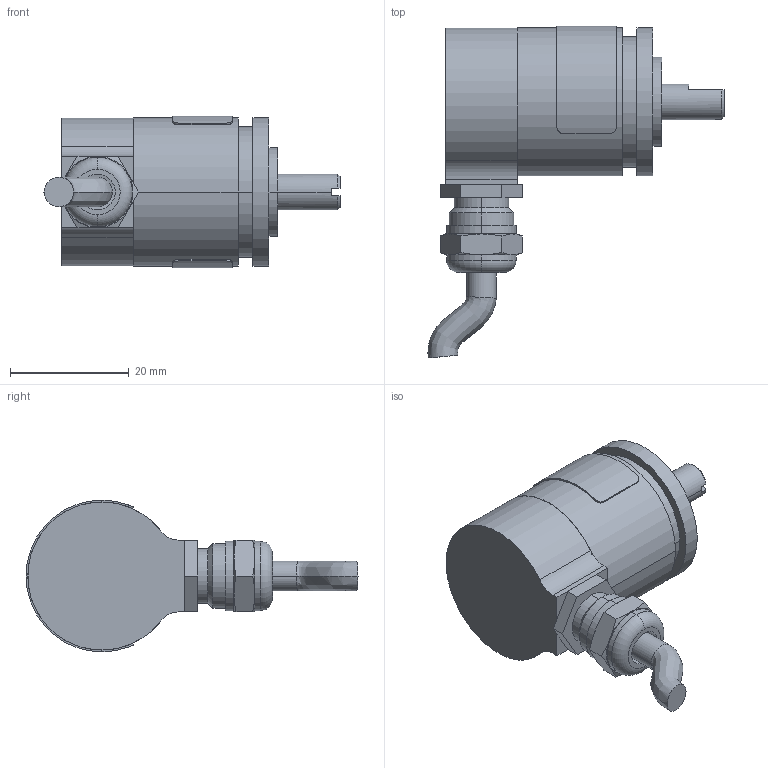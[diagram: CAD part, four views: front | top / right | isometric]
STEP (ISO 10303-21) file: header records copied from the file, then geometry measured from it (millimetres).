
FILE_DESCRIPTION (( 'STEP AP203' ), '1' );
FILE_NAME ('HTx25 6x12 PG R.STEP', '2022-05-31T13:13:03', ( '' ), ( '' ), 'SwSTEP 2.0', 'SolidWorks 2019', '' );
FILE_SCHEMA (( 'CONFIG_CONTROL_DESIGN' ));
Length unit declared in the file: millimetre
Products named in the file (1): HTx25 6x12 PG R
Bounding box: 49.98 x 56.03 x 25.6 mm (x, y, z)
Surface area: 7289.3 mm2 (no closed solid volume)
Topology: 0 solids, 12 shells, 156 faces, 376 edges, 244 vertices
Faces by surface type: cylinder 60, plane 51, cone 36, bspline 7, torus 2
Entity records: 5257 total; most frequent: CARTESIAN_POINT 1538, DIRECTION 803, ORIENTED_EDGE 686, EDGE_CURVE 376, AXIS2_PLACEMENT_3D 327, VERTEX_POINT 244, EDGE_LOOP 182, CIRCLE 177
